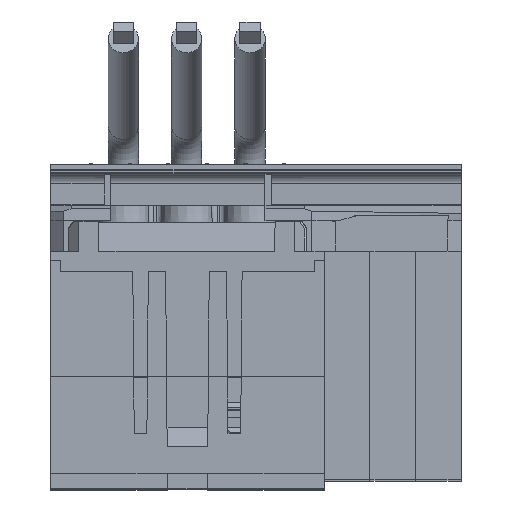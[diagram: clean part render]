
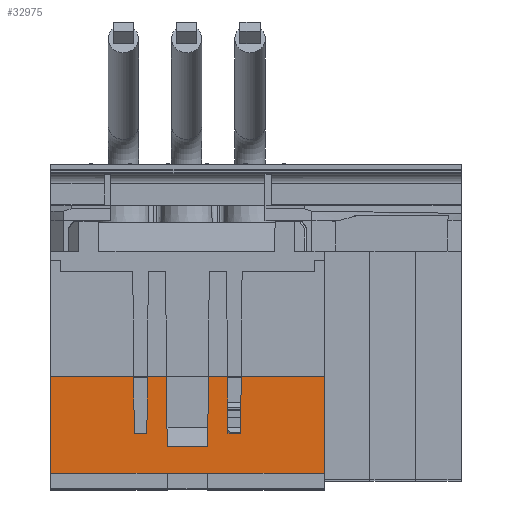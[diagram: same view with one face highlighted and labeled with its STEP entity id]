
A CAD part, top view. The second image highlights one B-rep face of the part: STEP entity #32975.
In plain terms, the highlighted planar face has unit normal (0, -0.009, 1).
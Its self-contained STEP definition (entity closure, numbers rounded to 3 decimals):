
#516 = CARTESIAN_POINT ( 'NONE',  ( 10.778, 16.2, 200.18 ) ) ;
#1515 = DIRECTION ( 'NONE',  ( 1., 0., 0. ) ) ;
#1595 = VERTEX_POINT ( 'NONE', #65196 ) ;
#1633 = ORIENTED_EDGE ( 'NONE', *, *, #14230, .F. ) ;
#2074 = DIRECTION ( 'NONE',  ( -0.009, 1., 0.009 ) ) ;
#2262 = LINE ( 'NONE', #64284, #21583 ) ;
#3783 = ORIENTED_EDGE ( 'NONE', *, *, #48715, .T. ) ;
#3867 = EDGE_CURVE ( 'NONE', #82066, #73366, #15157, .T. ) ;
#4061 = ORIENTED_EDGE ( 'NONE', *, *, #41179, .T. ) ;
#5176 = LINE ( 'NONE', #15907, #24488 ) ;
#5317 = EDGE_CURVE ( 'NONE', #70797, #77952, #76163, .T. ) ;
#5887 = CARTESIAN_POINT ( 'NONE',  ( -26., -23.5, 199.833 ) ) ;
#8073 = VECTOR ( 'NONE', #73927, 1000. ) ;
#8754 = LINE ( 'NONE', #20137, #69971 ) ;
#10383 = LINE ( 'NONE', #38973, #71597 ) ;
#10544 = DIRECTION ( 'NONE',  ( -0.009, -1., -0.009 ) ) ;
#10977 = VECTOR ( 'NONE', #67087, 1000. ) ;
#11080 = VECTOR ( 'NONE', #56983, 1000. ) ;
#11351 = VERTEX_POINT ( 'NONE', #45041 ) ;
#11438 = VERTEX_POINT ( 'NONE', #75235 ) ;
#12121 = ORIENTED_EDGE ( 'NONE', *, *, #3867, .T. ) ;
#14227 = DIRECTION ( 'NONE',  ( 1., 0., 0. ) ) ;
#14230 = EDGE_CURVE ( 'NONE', #18918, #73366, #17109, .T. ) ;
#14407 = EDGE_CURVE ( 'NONE', #80763, #77952, #20105, .T. ) ;
#14706 = DIRECTION ( 'NONE',  ( -0.009, -1., -0.009 ) ) ;
#15157 = LINE ( 'NONE', #37867, #11080 ) ;
#15466 = ORIENTED_EDGE ( 'NONE', *, *, #57979, .F. ) ;
#15549 = LINE ( 'NONE', #516, #23753 ) ;
#15907 = CARTESIAN_POINT ( 'NONE',  ( -4.003, -18.18, 199.88 ) ) ;
#16003 = AXIS2_PLACEMENT_3D ( 'NONE', #32257, #84519, #45406 ) ;
#16039 = VECTOR ( 'NONE', #17968, 1000. ) ;
#16365 = ORIENTED_EDGE ( 'NONE', *, *, #28588, .T. ) ;
#16504 = LINE ( 'NONE', #77449, #58310 ) ;
#17109 = LINE ( 'NONE', #21463, #10977 ) ;
#17225 = EDGE_CURVE ( 'NONE', #18918, #1595, #15549, .T. ) ;
#17359 = CARTESIAN_POINT ( 'NONE',  ( -10.5, -15.7, 199.902 ) ) ;
#17537 = DIRECTION ( 'NONE',  ( -1., 0., 0. ) ) ;
#17968 = DIRECTION ( 'NONE',  ( 1., 0., 0. ) ) ;
#18149 = ORIENTED_EDGE ( 'NONE', *, *, #20596, .T. ) ;
#18260 = CARTESIAN_POINT ( 'NONE',  ( -26., -4.5, 199.999 ) ) ;
#18918 = VERTEX_POINT ( 'NONE', #26797 ) ;
#19134 = PLANE ( 'NONE',  #16003 ) ;
#19327 = ORIENTED_EDGE ( 'NONE', *, *, #5317, .T. ) ;
#20105 = LINE ( 'NONE', #18260, #16039 ) ;
#20137 = CARTESIAN_POINT ( 'NONE',  ( -26., -15.7, 199.902 ) ) ;
#20324 = ORIENTED_EDGE ( 'NONE', *, *, #51025, .T. ) ;
#20359 = LINE ( 'NONE', #74307, #66274 ) ;
#20449 = ORIENTED_EDGE ( 'NONE', *, *, #68525, .T. ) ;
#20596 = EDGE_CURVE ( 'NONE', #48856, #11438, #70339, .T. ) ;
#21273 = DIRECTION ( 'NONE',  ( 1., 0., 0. ) ) ;
#21463 = CARTESIAN_POINT ( 'NONE',  ( -26., -4.5, 199.999 ) ) ;
#21583 = VECTOR ( 'NONE', #17537, 1000. ) ;
#21897 = EDGE_CURVE ( 'NONE', #11351, #82066, #56844, .T. ) ;
#22703 = CARTESIAN_POINT ( 'NONE',  ( -4.003, -18.18, 199.88 ) ) ;
#23753 = VECTOR ( 'NONE', #52947, 1000. ) ;
#24488 = VECTOR ( 'NONE', #73548, 1000. ) ;
#24645 = VECTOR ( 'NONE', #32923, 1000. ) ;
#25721 = EDGE_LOOP ( 'NONE', ( #53673, #37237, #4061, #33954, #54374, #12121, #1633, #78294, #16365, #43520, #83849, #20449, #3783, #20324, #15466, #18149, #36023, #19327 ) ) ;
#26400 = DIRECTION ( 'NONE',  ( -1., 0., 0. ) ) ;
#26797 = CARTESIAN_POINT ( 'NONE',  ( 10.598, -4.5, 199.999 ) ) ;
#26958 = CARTESIAN_POINT ( 'NONE',  ( 4.303, 16.2, 200.18 ) ) ;
#27365 = CARTESIAN_POINT ( 'NONE',  ( 8., -15.7, 199.902 ) ) ;
#27519 = CARTESIAN_POINT ( 'NONE',  ( -27., -4.5, 199.999 ) ) ;
#27897 = VERTEX_POINT ( 'NONE', #73884 ) ;
#28588 = EDGE_CURVE ( 'NONE', #1595, #69180, #10383, .T. ) ;
#29006 = CARTESIAN_POINT ( 'NONE',  ( -7.902, -4.5, 199.999 ) ) ;
#29345 = VERTEX_POINT ( 'NONE', #54234 ) ;
#32257 = CARTESIAN_POINT ( 'NONE',  ( -26., 18.5, 200.2 ) ) ;
#32339 = VERTEX_POINT ( 'NONE', #78008 ) ;
#32509 = CARTESIAN_POINT ( 'NONE',  ( -26., -23.5, 199.833 ) ) ;
#32923 = DIRECTION ( 'NONE',  ( 1., 0., 0. ) ) ;
#32975 = ADVANCED_FACE ( 'NONE', ( #83311 ), #19134, .T. ) ;
#33395 = CARTESIAN_POINT ( 'NONE',  ( -26., -4.5, 199.999 ) ) ;
#33610 = VECTOR ( 'NONE', #10544, 1000. ) ;
#33954 = ORIENTED_EDGE ( 'NONE', *, *, #66067, .T. ) ;
#36023 = ORIENTED_EDGE ( 'NONE', *, *, #71057, .T. ) ;
#37237 = ORIENTED_EDGE ( 'NONE', *, *, #43248, .T. ) ;
#37867 = CARTESIAN_POINT ( 'NONE',  ( 27., 18.5, 200.2 ) ) ;
#38000 = VERTEX_POINT ( 'NONE', #75357 ) ;
#38973 = CARTESIAN_POINT ( 'NONE',  ( -26., -15.7, 199.902 ) ) ;
#40190 = VERTEX_POINT ( 'NONE', #54441 ) ;
#40973 = VECTOR ( 'NONE', #1515, 1000. ) ;
#41179 = EDGE_CURVE ( 'NONE', #29345, #40190, #20359, .T. ) ;
#42188 = CARTESIAN_POINT ( 'NONE',  ( 4.122, -4.5, 199.999 ) ) ;
#43248 = EDGE_CURVE ( 'NONE', #80763, #29345, #78440, .T. ) ;
#43520 = ORIENTED_EDGE ( 'NONE', *, *, #47932, .T. ) ;
#43684 = VECTOR ( 'NONE', #14706, 1000. ) ;
#43781 = CARTESIAN_POINT ( 'NONE',  ( -10.598, -4.5, 199.999 ) ) ;
#45041 = CARTESIAN_POINT ( 'NONE',  ( 4., -23.5, 199.833 ) ) ;
#45406 = DIRECTION ( 'NONE',  ( 0., -1., -0.009 ) ) ;
#46855 = VERTEX_POINT ( 'NONE', #22703 ) ;
#47932 = EDGE_CURVE ( 'NONE', #69180, #27897, #76826, .T. ) ;
#48715 = EDGE_CURVE ( 'NONE', #38000, #46855, #2262, .T. ) ;
#48856 = VERTEX_POINT ( 'NONE', #29006 ) ;
#51025 = EDGE_CURVE ( 'NONE', #46855, #32339, #5176, .T. ) ;
#52947 = DIRECTION ( 'NONE',  ( -0.009, -1., -0.009 ) ) ;
#53673 = ORIENTED_EDGE ( 'NONE', *, *, #14407, .F. ) ;
#54234 = CARTESIAN_POINT ( 'NONE',  ( -27., -23.5, 199.833 ) ) ;
#54374 = ORIENTED_EDGE ( 'NONE', *, *, #21897, .T. ) ;
#54441 = CARTESIAN_POINT ( 'NONE',  ( -4., -23.5, 199.833 ) ) ;
#56280 = CARTESIAN_POINT ( 'NONE',  ( 27., -4.5, 199.999 ) ) ;
#56844 = LINE ( 'NONE', #32509, #72130 ) ;
#56983 = DIRECTION ( 'NONE',  ( 0., 1., 0.009 ) ) ;
#57979 = EDGE_CURVE ( 'NONE', #48856, #32339, #77719, .T. ) ;
#58310 = VECTOR ( 'NONE', #64303, 1000. ) ;
#59837 = VECTOR ( 'NONE', #60113, 1000. ) ;
#60113 = DIRECTION ( 'NONE',  ( -0.009, 1., 0.009 ) ) ;
#60663 = CARTESIAN_POINT ( 'NONE',  ( -10.5, -15.7, 199.902 ) ) ;
#63460 = LINE ( 'NONE', #5887, #24645 ) ;
#64284 = CARTESIAN_POINT ( 'NONE',  ( -26., -18.18, 199.88 ) ) ;
#64303 = DIRECTION ( 'NONE',  ( 1., 0., 0. ) ) ;
#64887 = DIRECTION ( 'NONE',  ( -1., 0., 0. ) ) ;
#65082 = LINE ( 'NONE', #26958, #43684 ) ;
#65196 = CARTESIAN_POINT ( 'NONE',  ( 10.5, -15.7, 199.902 ) ) ;
#66067 = EDGE_CURVE ( 'NONE', #40190, #11351, #63460, .T. ) ;
#66106 = EDGE_CURVE ( 'NONE', #70686, #27897, #16504, .T. ) ;
#66274 = VECTOR ( 'NONE', #21273, 1000. ) ;
#66792 = CARTESIAN_POINT ( 'NONE',  ( -27., 18.5, 200.2 ) ) ;
#67087 = DIRECTION ( 'NONE',  ( 1., 0., 0. ) ) ;
#68525 = EDGE_CURVE ( 'NONE', #70686, #38000, #65082, .T. ) ;
#68531 = CARTESIAN_POINT ( 'NONE',  ( 8., -15.7, 199.902 ) ) ;
#69180 = VERTEX_POINT ( 'NONE', #68531 ) ;
#69971 = VECTOR ( 'NONE', #26400, 1000. ) ;
#70339 = LINE ( 'NONE', #75298, #33610 ) ;
#70686 = VERTEX_POINT ( 'NONE', #42188 ) ;
#70797 = VERTEX_POINT ( 'NONE', #17359 ) ;
#71057 = EDGE_CURVE ( 'NONE', #11438, #70797, #8754, .T. ) ;
#71597 = VECTOR ( 'NONE', #64887, 1000. ) ;
#72130 = VECTOR ( 'NONE', #14227, 1000. ) ;
#73366 = VERTEX_POINT ( 'NONE', #56280 ) ;
#73548 = DIRECTION ( 'NONE',  ( -0.009, 1., 0.009 ) ) ;
#73884 = CARTESIAN_POINT ( 'NONE',  ( 7.902, -4.5, 199.999 ) ) ;
#73927 = DIRECTION ( 'NONE',  ( 0., -1., -0.009 ) ) ;
#74307 = CARTESIAN_POINT ( 'NONE',  ( 4., -23.5, 199.833 ) ) ;
#75235 = CARTESIAN_POINT ( 'NONE',  ( -8., -15.7, 199.902 ) ) ;
#75298 = CARTESIAN_POINT ( 'NONE',  ( -7.722, 16.2, 200.18 ) ) ;
#75357 = CARTESIAN_POINT ( 'NONE',  ( 4.003, -18.18, 199.88 ) ) ;
#76163 = LINE ( 'NONE', #60663, #59837 ) ;
#76826 = LINE ( 'NONE', #27365, #83041 ) ;
#77449 = CARTESIAN_POINT ( 'NONE',  ( -26., -4.5, 199.999 ) ) ;
#77719 = LINE ( 'NONE', #33395, #40973 ) ;
#77952 = VERTEX_POINT ( 'NONE', #43781 ) ;
#78008 = CARTESIAN_POINT ( 'NONE',  ( -4.122, -4.5, 199.999 ) ) ;
#78294 = ORIENTED_EDGE ( 'NONE', *, *, #17225, .T. ) ;
#78440 = LINE ( 'NONE', #66792, #8073 ) ;
#80763 = VERTEX_POINT ( 'NONE', #27519 ) ;
#82066 = VERTEX_POINT ( 'NONE', #83001 ) ;
#83001 = CARTESIAN_POINT ( 'NONE',  ( 27., -23.5, 199.833 ) ) ;
#83041 = VECTOR ( 'NONE', #2074, 1000. ) ;
#83311 = FACE_OUTER_BOUND ( 'NONE', #25721, .T. ) ;
#83849 = ORIENTED_EDGE ( 'NONE', *, *, #66106, .F. ) ;
#84519 = DIRECTION ( 'NONE',  ( 0., -0.009, 1. ) ) ;
